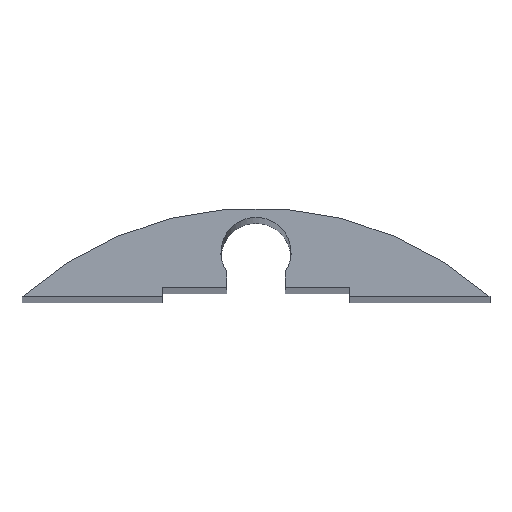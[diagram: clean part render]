
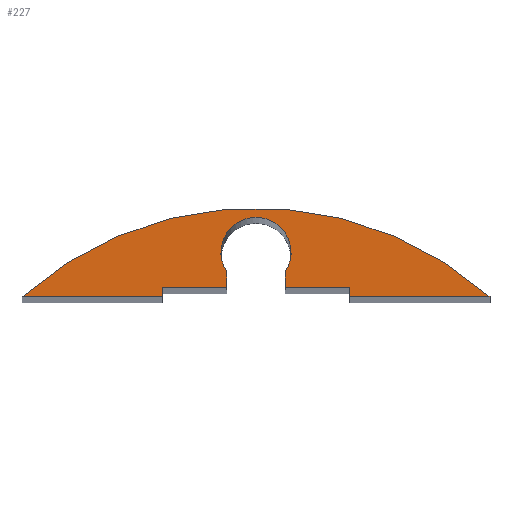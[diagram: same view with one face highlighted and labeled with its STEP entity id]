
A CAD part, top view. The second image highlights one B-rep face of the part: STEP entity #227.
In plain terms, the highlighted planar face has unit normal (0, 0, 1).
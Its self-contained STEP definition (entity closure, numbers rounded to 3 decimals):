
#16=CIRCLE('',#246,3.);
#18=CIRCLE('',#253,30.116);
#31=FACE_OUTER_BOUND('',#43,.T.);
#43=EDGE_LOOP('',(#187,#188,#189,#190,#191,#192,#193,#194,#195,#196));
#47=LINE('',#327,#73);
#51=LINE('',#339,#77);
#54=LINE('',#345,#80);
#57=LINE('',#351,#83);
#60=LINE('',#357,#86);
#64=LINE('',#369,#90);
#67=LINE('',#375,#93);
#70=LINE('',#379,#96);
#73=VECTOR('',#265,10.);
#77=VECTOR('',#277,10.);
#80=VECTOR('',#282,10.);
#83=VECTOR('',#287,10.);
#86=VECTOR('',#292,10.);
#90=VECTOR('',#304,10.);
#93=VECTOR('',#309,10.);
#96=VECTOR('',#314,10.);
#99=VERTEX_POINT('',#324);
#100=VERTEX_POINT('',#326);
#102=VERTEX_POINT('',#332);
#104=VERTEX_POINT('',#338);
#106=VERTEX_POINT('',#344);
#108=VERTEX_POINT('',#350);
#110=VERTEX_POINT('',#356);
#112=VERTEX_POINT('',#362);
#114=VERTEX_POINT('',#368);
#116=VERTEX_POINT('',#374);
#119=EDGE_CURVE('',#100,#99,#47,.T.);
#122=EDGE_CURVE('',#102,#100,#16,.T.);
#125=EDGE_CURVE('',#104,#102,#51,.T.);
#128=EDGE_CURVE('',#106,#104,#54,.T.);
#131=EDGE_CURVE('',#108,#106,#57,.T.);
#134=EDGE_CURVE('',#110,#108,#60,.T.);
#137=EDGE_CURVE('',#112,#110,#18,.T.);
#140=EDGE_CURVE('',#114,#112,#64,.T.);
#143=EDGE_CURVE('',#116,#114,#67,.T.);
#146=EDGE_CURVE('',#99,#116,#70,.T.);
#187=ORIENTED_EDGE('',*,*,#146,.T.);
#188=ORIENTED_EDGE('',*,*,#143,.T.);
#189=ORIENTED_EDGE('',*,*,#140,.T.);
#190=ORIENTED_EDGE('',*,*,#137,.T.);
#191=ORIENTED_EDGE('',*,*,#134,.T.);
#192=ORIENTED_EDGE('',*,*,#131,.T.);
#193=ORIENTED_EDGE('',*,*,#128,.T.);
#194=ORIENTED_EDGE('',*,*,#125,.T.);
#195=ORIENTED_EDGE('',*,*,#122,.T.);
#196=ORIENTED_EDGE('',*,*,#119,.T.);
#215=PLANE('',#257);
#227=ADVANCED_FACE('',(#31),#215,.T.);
#246=AXIS2_PLACEMENT_3D('',#333,#271,#272);
#253=AXIS2_PLACEMENT_3D('',#363,#298,#299);
#257=AXIS2_PLACEMENT_3D('',#380,#315,#316);
#265=DIRECTION('',(0.,-1.,0.));
#271=DIRECTION('center_axis',(0.,0.,-1.));
#272=DIRECTION('ref_axis',(1.,0.,0.));
#277=DIRECTION('',(0.,1.,0.));
#282=DIRECTION('',(1.,0.,0.));
#287=DIRECTION('',(0.,1.,0.));
#292=DIRECTION('',(1.,0.,0.));
#298=DIRECTION('center_axis',(0.,0.,1.));
#299=DIRECTION('ref_axis',(0.664,0.748,0.));
#304=DIRECTION('',(1.,0.,0.));
#309=DIRECTION('',(0.,-1.,0.));
#314=DIRECTION('',(1.,0.,0.));
#315=DIRECTION('center_axis',(0.,0.,1.));
#316=DIRECTION('ref_axis',(1.,0.,0.));
#324=CARTESIAN_POINT('',(22.5,0.8,300.));
#326=CARTESIAN_POINT('',(22.5,2.142,300.));
#327=CARTESIAN_POINT('',(22.5,3.8,300.));
#332=CARTESIAN_POINT('',(17.5,2.142,300.));
#333=CARTESIAN_POINT('Origin',(20.,3.8,300.));
#338=CARTESIAN_POINT('',(17.5,0.8,300.));
#339=CARTESIAN_POINT('',(17.5,3.8,300.));
#344=CARTESIAN_POINT('',(12.,0.8,300.));
#345=CARTESIAN_POINT('',(17.5,0.8,300.));
#350=CARTESIAN_POINT('',(12.,0.,300.));
#351=CARTESIAN_POINT('',(12.,0.8,300.));
#356=CARTESIAN_POINT('',(0.,0.,300.));
#357=CARTESIAN_POINT('',(12.,0.,300.));
#362=CARTESIAN_POINT('',(40.,0.,300.));
#363=CARTESIAN_POINT('Origin',(20.,-22.516,300.));
#368=CARTESIAN_POINT('',(28.,0.,300.));
#369=CARTESIAN_POINT('',(28.,0.,300.));
#374=CARTESIAN_POINT('',(28.,0.8,300.));
#375=CARTESIAN_POINT('',(28.,0.8,300.));
#379=CARTESIAN_POINT('',(22.5,0.8,300.));
#380=CARTESIAN_POINT('Origin',(20.,3.8,300.));
